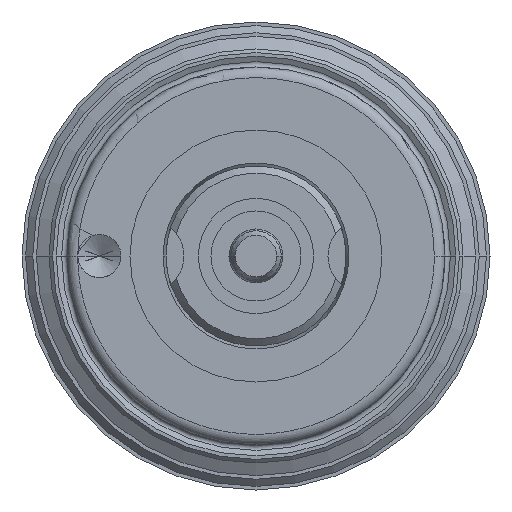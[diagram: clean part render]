
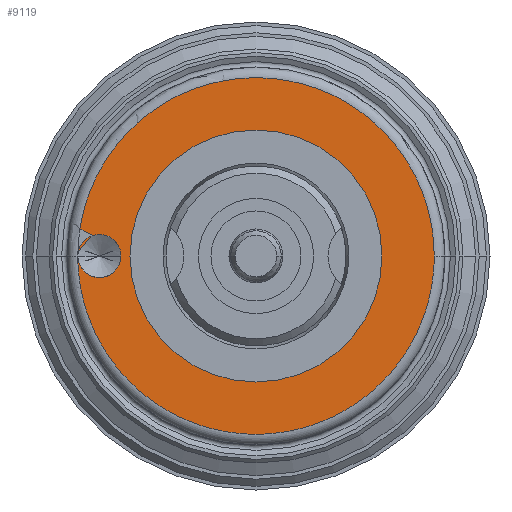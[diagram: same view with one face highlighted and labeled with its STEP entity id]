
A CAD part, left-side view. The second image highlights one B-rep face of the part: STEP entity #9119.
In plain terms, the highlighted planar face has unit normal (-1, 0, 0).
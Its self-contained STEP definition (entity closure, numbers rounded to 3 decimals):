
#3040=CARTESIAN_POINT('',(-3.37,0.,0.));
#3041=DIRECTION('',(-1.,0.,0.));
#3042=DIRECTION('',(0.,-1.,0.));
#3043=AXIS2_PLACEMENT_3D('',#3040,#3041,#3042);
#3048=CARTESIAN_POINT('',(-3.37,0.,0.));
#3049=DIRECTION('',(-1.,0.,0.));
#3050=DIRECTION('',(0.,1.,0.));
#3051=AXIS2_PLACEMENT_3D('',#3048,#3049,#3050);
#3056=CARTESIAN_POINT('',(-3.37,4.35,0.));
#3057=DIRECTION('',(-1.,0.,0.));
#3058=DIRECTION('',(0.,-1.,0.));
#3059=AXIS2_PLACEMENT_3D('',#3056,#3057,#3058);
#3064=CARTESIAN_POINT('',(-3.37,4.35,0.));
#3065=DIRECTION('',(-1.,0.,0.));
#3066=DIRECTION('',(0.,1.,0.));
#3067=AXIS2_PLACEMENT_3D('',#3064,#3065,#3066);
#3072=CARTESIAN_POINT('',(-3.37,0.,0.));
#3073=DIRECTION('',(-1.,0.,0.));
#3074=DIRECTION('',(0.,1.,0.));
#3075=AXIS2_PLACEMENT_3D('',#3072,#3073,#3074);
#3080=CARTESIAN_POINT('',(-3.37,0.,0.));
#3081=DIRECTION('',(-1.,0.,0.));
#3082=DIRECTION('',(0.,-1.,0.));
#3083=AXIS2_PLACEMENT_3D('',#3080,#3081,#3082);
#6077=CARTESIAN_POINT('',(-3.37,3.5,0.));
#6078=CARTESIAN_POINT('',(-3.37,-3.5,0.));
#6079=VERTEX_POINT('',#6077);
#6080=VERTEX_POINT('',#6078);
#6099=CARTESIAN_POINT('',(-3.37,4.95,0.));
#6100=VERTEX_POINT('',#6099);
#6101=CARTESIAN_POINT('',(-3.37,3.75,0.));
#6102=VERTEX_POINT('',#6101);
#6119=CARTESIAN_POINT('',(-3.37,-4.95,0.));
#6120=CARTESIAN_POINT('',(-3.37,4.95,0.));
#6121=VERTEX_POINT('',#6119);
#6122=VERTEX_POINT('',#6120);
#9097=CARTESIAN_POINT('',(-3.37,0.,0.));
#9098=DIRECTION('',(1.,0.,0.));
#9099=DIRECTION('',(0.,-1.,0.));
#9100=AXIS2_PLACEMENT_3D('',#9097,#9098,#9099);
#9101=PLANE('',#9100);
#9103=ORIENTED_EDGE('',*,*,#9102,.F.);
#9104=ORIENTED_EDGE('',*,*,#9087,.F.);
#9105=EDGE_LOOP('',(#9103,#9104));
#9106=FACE_OUTER_BOUND('',#9105,.F.);
#9108=ORIENTED_EDGE('',*,*,#9107,.T.);
#9110=ORIENTED_EDGE('',*,*,#9109,.T.);
#9111=EDGE_LOOP('',(#9108,#9110));
#9112=FACE_BOUND('',#9111,.F.);
#9114=ORIENTED_EDGE('',*,*,#9113,.T.);
#9116=ORIENTED_EDGE('',*,*,#9115,.T.);
#9117=EDGE_LOOP('',(#9114,#9116));
#9118=FACE_BOUND('',#9117,.F.);
#9119=ADVANCED_FACE('',(#9106,#9112,#9118),#9101,.F.);
#3044=CIRCLE('',#3043,4.95);
#3052=CIRCLE('',#3051,4.95);
#3060=CIRCLE('',#3059,0.6);
#3068=CIRCLE('',#3067,0.6);
#3076=CIRCLE('',#3075,3.5);
#3084=CIRCLE('',#3083,3.5);
#9087=EDGE_CURVE('',#6122,#6121,#3052,.T.);
#9102=EDGE_CURVE('',#6121,#6122,#3044,.T.);
#9107=EDGE_CURVE('',#6102,#6100,#3060,.T.);
#9109=EDGE_CURVE('',#6100,#6102,#3068,.T.);
#9113=EDGE_CURVE('',#6079,#6080,#3076,.T.);
#9115=EDGE_CURVE('',#6080,#6079,#3084,.T.);
